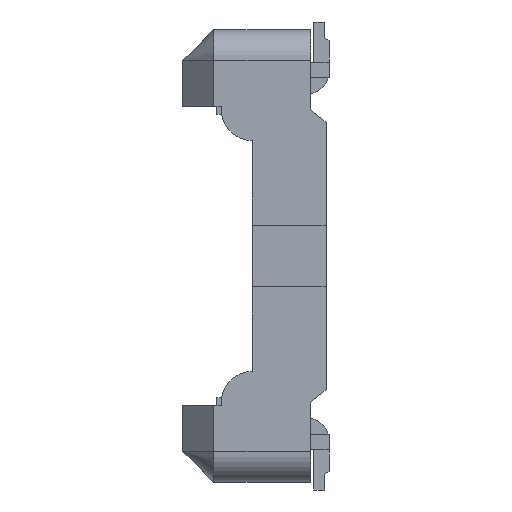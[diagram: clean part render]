
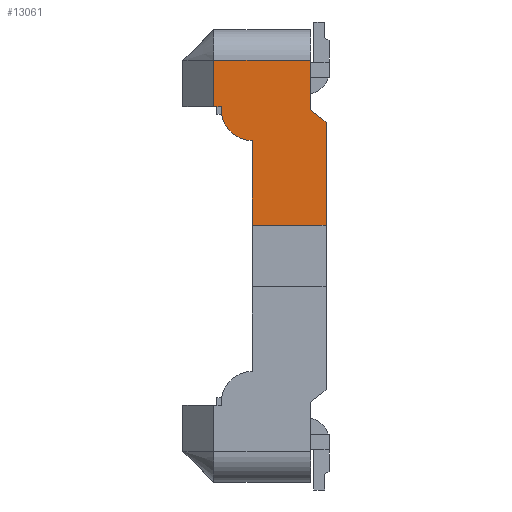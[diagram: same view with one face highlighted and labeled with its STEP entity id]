
A CAD part, left-side view. The second image highlights one B-rep face of the part: STEP entity #13061.
In plain terms, the highlighted planar face has unit normal (-1, 0, 0).
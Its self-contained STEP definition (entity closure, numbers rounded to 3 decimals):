
#1272=DIRECTION('',(0.,1.,0.));
#1273=VECTOR('',#1272,0.63);
#1274=CARTESIAN_POINT('',(-4.85,-0.24,1.27));
#1275=LINE('',#1274,#1273);
#1285=DIRECTION('',(0.,1.,0.));
#1286=VECTOR('',#1285,0.48);
#1287=CARTESIAN_POINT('',(-4.85,-0.34,0.2));
#1288=LINE('',#1287,#1286);
#1289=DIRECTION('',(0.,0.,1.));
#1290=VECTOR('',#1289,0.55);
#1291=CARTESIAN_POINT('',(-4.85,0.14,0.2));
#1292=LINE('',#1291,#1290);
#1293=CARTESIAN_POINT('',(-4.85,0.14,0.95));
#1294=DIRECTION('',(1.,0.,0.));
#1295=DIRECTION('',(0.,0.,-1.));
#1296=AXIS2_PLACEMENT_3D('',#1293,#1294,#1295);
#1298=DIRECTION('',(0.,0.,1.));
#1299=VECTOR('',#1298,0.02);
#1300=CARTESIAN_POINT('',(-4.85,0.34,0.95));
#1301=LINE('',#1300,#1299);
#1302=DIRECTION('',(0.,1.,0.));
#1303=VECTOR('',#1302,0.05);
#1304=CARTESIAN_POINT('',(-4.85,0.34,0.97));
#1305=LINE('',#1304,#1303);
#1306=DIRECTION('',(0.,0.,-1.));
#1307=VECTOR('',#1306,0.32);
#1308=CARTESIAN_POINT('',(-4.85,-0.24,1.27));
#1309=LINE('',#1308,#1307);
#1310=DIRECTION('',(0.,0.781,0.625));
#1311=VECTOR('',#1310,0.128);
#1312=CARTESIAN_POINT('',(-4.85,-0.34,0.87));
#1313=LINE('',#1312,#1311);
#1343=DIRECTION('',(0.,0.,1.));
#1344=VECTOR('',#1343,0.67);
#1345=CARTESIAN_POINT('',(-4.85,-0.34,0.2));
#1346=LINE('',#1345,#1344);
#4407=DIRECTION('',(0.,0.,1.));
#4408=VECTOR('',#4407,0.3);
#4409=CARTESIAN_POINT('',(-4.85,0.39,0.97));
#4410=LINE('',#4409,#4408);
#9017=CARTESIAN_POINT('',(-4.85,0.34,0.97));
#9019=VERTEX_POINT('',#9017);
#9025=CARTESIAN_POINT('',(-4.85,-0.34,0.87));
#9026=CARTESIAN_POINT('',(-4.85,-0.24,0.95));
#9027=VERTEX_POINT('',#9025);
#9028=VERTEX_POINT('',#9026);
#9129=CARTESIAN_POINT('',(-4.85,0.14,0.75));
#9130=CARTESIAN_POINT('',(-4.85,0.34,0.95));
#9131=VERTEX_POINT('',#9129);
#9132=VERTEX_POINT('',#9130);
#9929=CARTESIAN_POINT('',(-4.85,0.39,0.97));
#9930=VERTEX_POINT('',#9929);
#9954=CARTESIAN_POINT('',(-4.85,-0.24,1.27));
#9956=VERTEX_POINT('',#9954);
#9975=CARTESIAN_POINT('',(-4.85,0.39,1.27));
#9976=VERTEX_POINT('',#9975);
#11745=CARTESIAN_POINT('',(-4.85,-0.34,0.2));
#11746=CARTESIAN_POINT('',(-4.85,0.14,0.2));
#11747=VERTEX_POINT('',#11745);
#11748=VERTEX_POINT('',#11746);
#13036=CARTESIAN_POINT('',(-4.85,0.34,-1.47));
#13037=DIRECTION('',(-1.,0.,0.));
#13038=DIRECTION('',(0.,-1.,0.));
#13039=AXIS2_PLACEMENT_3D('',#13036,#13037,#13038);
#13040=PLANE('',#13039);
#13042=ORIENTED_EDGE('',*,*,#13041,.T.);
#13044=ORIENTED_EDGE('',*,*,#13043,.T.);
#13046=ORIENTED_EDGE('',*,*,#13045,.T.);
#13048=ORIENTED_EDGE('',*,*,#13047,.T.);
#13050=ORIENTED_EDGE('',*,*,#13049,.T.);
#13052=ORIENTED_EDGE('',*,*,#13051,.T.);
#13053=ORIENTED_EDGE('',*,*,#13026,.F.);
#13054=ORIENTED_EDGE('',*,*,#12529,.T.);
#13056=ORIENTED_EDGE('',*,*,#13055,.F.);
#13058=ORIENTED_EDGE('',*,*,#13057,.F.);
#13059=EDGE_LOOP('',(#13042,#13044,#13046,#13048,#13050,#13052,#13053,#13054,
#13056,#13058));
#13060=FACE_OUTER_BOUND('',#13059,.F.);
#13061=ADVANCED_FACE('',(#13060),#13040,.T.);
#1297=CIRCLE('',#1296,0.2);
#12529=EDGE_CURVE('',#9956,#9028,#1309,.T.);
#13026=EDGE_CURVE('',#9956,#9976,#1275,.T.);
#13041=EDGE_CURVE('',#11747,#11748,#1288,.T.);
#13043=EDGE_CURVE('',#11748,#9131,#1292,.T.);
#13045=EDGE_CURVE('',#9131,#9132,#1297,.T.);
#13047=EDGE_CURVE('',#9132,#9019,#1301,.T.);
#13049=EDGE_CURVE('',#9019,#9930,#1305,.T.);
#13051=EDGE_CURVE('',#9930,#9976,#4410,.T.);
#13055=EDGE_CURVE('',#9027,#9028,#1313,.T.);
#13057=EDGE_CURVE('',#11747,#9027,#1346,.T.);
